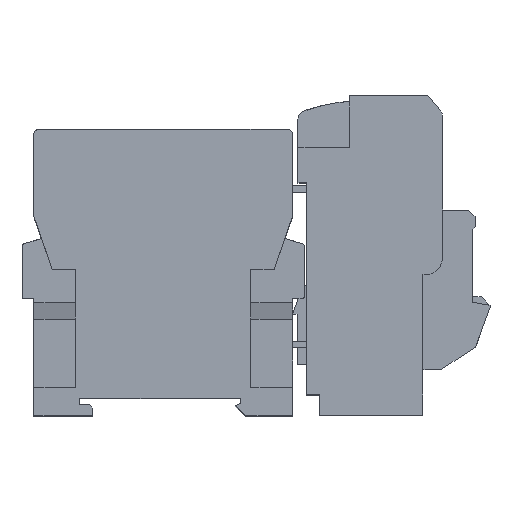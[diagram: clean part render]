
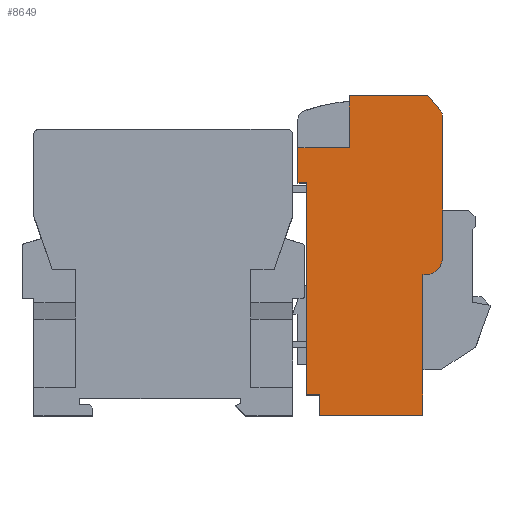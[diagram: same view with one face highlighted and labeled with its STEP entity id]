
A CAD part, top view. The second image highlights one B-rep face of the part: STEP entity #8649.
In plain terms, the highlighted planar face has unit normal (0, 0, 1) as drawn and (-1, 0, 0) by its records, which use the part's own axes.
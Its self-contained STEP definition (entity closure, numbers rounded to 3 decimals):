
#107 = DIRECTION ( 'NONE',  ( 0., 1., 0. ) ) ;
#275 = VERTEX_POINT ( 'NONE', #10332 ) ;
#374 = EDGE_CURVE ( 'NONE', #1355, #5668, #2271, .T. ) ;
#411 = EDGE_CURVE ( 'NONE', #14746, #8705, #10708, .T. ) ;
#431 = VECTOR ( 'NONE', #10090, 1000. ) ;
#605 = CARTESIAN_POINT ( 'NONE',  ( -0.476, -29.954, -1.833 ) ) ;
#652 = AXIS2_PLACEMENT_3D ( 'NONE', #605, #8642, #1780 ) ;
#674 = VERTEX_POINT ( 'NONE', #9810 ) ;
#860 = CARTESIAN_POINT ( 'NONE',  ( -0.476, -30.763, 34.767 ) ) ;
#915 = ORIENTED_EDGE ( 'NONE', *, *, #12789, .F. ) ;
#916 = VERTEX_POINT ( 'NONE', #7682 ) ;
#988 = ORIENTED_EDGE ( 'NONE', *, *, #1944, .F. ) ;
#1066 = EDGE_CURVE ( 'NONE', #7378, #14746, #10867, .T. ) ;
#1080 = LINE ( 'NONE', #2215, #6839 ) ;
#1094 = VERTEX_POINT ( 'NONE', #11858 ) ;
#1355 = VERTEX_POINT ( 'NONE', #13533 ) ;
#1449 = DIRECTION ( 'NONE',  ( 0., 0., -1. ) ) ;
#1506 = DIRECTION ( 'NONE',  ( 0., 1., 0. ) ) ;
#1548 = CARTESIAN_POINT ( 'NONE',  ( -0.476, -2.954, 15.167 ) ) ;
#1674 = EDGE_CURVE ( 'NONE', #10257, #275, #13481, .T. ) ;
#1707 = VERTEX_POINT ( 'NONE', #1874 ) ;
#1762 = ORIENTED_EDGE ( 'NONE', *, *, #1674, .F. ) ;
#1780 = DIRECTION ( 'NONE',  ( 0., 1., 0. ) ) ;
#1874 = CARTESIAN_POINT ( 'NONE',  ( -0.476, -29.454, -5.833 ) ) ;
#1944 = EDGE_CURVE ( 'NONE', #916, #14050, #1080, .T. ) ;
#2215 = CARTESIAN_POINT ( 'NONE',  ( -0.476, -17.668, 23.167 ) ) ;
#2271 = CIRCLE ( 'NONE', #7478, 2. ) ;
#2334 = DIRECTION ( 'NONE',  ( 0., 0., 1. ) ) ;
#2383 = ORIENTED_EDGE ( 'NONE', *, *, #12006, .F. ) ;
#2500 = DIRECTION ( 'NONE',  ( 0., 0., 1. ) ) ;
#2507 = LINE ( 'NONE', #4022, #14355 ) ;
#3216 = DIRECTION ( 'NONE',  ( 0., 0., 1. ) ) ;
#3302 = VECTOR ( 'NONE', #10591, 1000. ) ;
#3455 = CARTESIAN_POINT ( 'NONE',  ( -0.476, -5.954, -1.248 ) ) ;
#3723 = DIRECTION ( 'NONE',  ( 1., 0., 0. ) ) ;
#3734 = CARTESIAN_POINT ( 'NONE',  ( -0.476, -29.454, -1.248 ) ) ;
#4022 = CARTESIAN_POINT ( 'NONE',  ( -0.476, -0.954, -1.248 ) ) ;
#4292 = EDGE_CURVE ( 'NONE', #1707, #13852, #9401, .T. ) ;
#4542 = DIRECTION ( 'NONE',  ( 0., 1., 0. ) ) ;
#4547 = DIRECTION ( 'NONE',  ( 0., -1., 0. ) ) ;
#4667 = EDGE_CURVE ( 'NONE', #1094, #10628, #7063, .T. ) ;
#4678 = EDGE_CURVE ( 'NONE', #674, #7378, #9737, .T. ) ;
#4847 = EDGE_CURVE ( 'NONE', #10628, #1355, #13324, .T. ) ;
#5023 = ORIENTED_EDGE ( 'NONE', *, *, #4292, .F. ) ;
#5225 = CARTESIAN_POINT ( 'NONE',  ( -0.476, -0.954, 15.167 ) ) ;
#5597 = DIRECTION ( 'NONE',  ( 0., 1., 0. ) ) ;
#5668 = VERTEX_POINT ( 'NONE', #6703 ) ;
#6120 = VECTOR ( 'NONE', #14276, 1000. ) ;
#6250 = CARTESIAN_POINT ( 'NONE',  ( -0.476, -33.954, -1.248 ) ) ;
#6338 = VECTOR ( 'NONE', #2334, 1000. ) ;
#6360 = AXIS2_PLACEMENT_3D ( 'NONE', #8318, #3723, #1449 ) ;
#6379 = DIRECTION ( 'NONE',  ( 0., 0., 1. ) ) ;
#6566 = LINE ( 'NONE', #6640, #431 ) ;
#6598 = ORIENTED_EDGE ( 'NONE', *, *, #14723, .F. ) ;
#6640 = CARTESIAN_POINT ( 'NONE',  ( -0.476, -17.668, -37.833 ) ) ;
#6703 = CARTESIAN_POINT ( 'NONE',  ( -0.476, -33.954, 30.236 ) ) ;
#6801 = EDGE_CURVE ( 'NONE', #7395, #916, #2507, .T. ) ;
#6839 = VECTOR ( 'NONE', #4547, 1000. ) ;
#7011 = DIRECTION ( 'NONE',  ( 1., 0., 0. ) ) ;
#7063 = LINE ( 'NONE', #9110, #12769 ) ;
#7230 = VECTOR ( 'NONE', #10057, 1000. ) ;
#7369 = ORIENTED_EDGE ( 'NONE', *, *, #10339, .F. ) ;
#7378 = VERTEX_POINT ( 'NONE', #13224 ) ;
#7395 = VERTEX_POINT ( 'NONE', #5225 ) ;
#7478 = AXIS2_PLACEMENT_3D ( 'NONE', #13894, #7011, #107 ) ;
#7682 = CARTESIAN_POINT ( 'NONE',  ( -0.476, -0.954, 23.167 ) ) ;
#7809 = VECTOR ( 'NONE', #1506, 1000. ) ;
#7962 = VECTOR ( 'NONE', #5597, 1000. ) ;
#8318 = CARTESIAN_POINT ( 'NONE',  ( -0.476, -17.668, -1.248 ) ) ;
#8371 = CARTESIAN_POINT ( 'NONE',  ( -0.476, -30.595, 34.967 ) ) ;
#8436 = LINE ( 'NONE', #6250, #6120 ) ;
#8642 = DIRECTION ( 'NONE',  ( 1., 0., 0. ) ) ;
#8649 = ADVANCED_FACE ( 'NONE', ( #9279 ), #11720, .F. ) ;
#8677 = EDGE_CURVE ( 'NONE', #8705, #7395, #11960, .T. ) ;
#8705 = VERTEX_POINT ( 'NONE', #1548 ) ;
#8718 = ORIENTED_EDGE ( 'NONE', *, *, #374, .F. ) ;
#8811 = ORIENTED_EDGE ( 'NONE', *, *, #1066, .F. ) ;
#8982 = CARTESIAN_POINT ( 'NONE',  ( -0.476, -29.454, -5.833 ) ) ;
#9074 = CARTESIAN_POINT ( 'NONE',  ( -0.476, -17.668, -33.233 ) ) ;
#9110 = CARTESIAN_POINT ( 'NONE',  ( -0.476, -17.668, 34.967 ) ) ;
#9279 = FACE_OUTER_BOUND ( 'NONE', #10287, .T. ) ;
#9401 = LINE ( 'NONE', #3734, #3302 ) ;
#9473 = CARTESIAN_POINT ( 'NONE',  ( -0.476, -0.954, 15.167 ) ) ;
#9737 = LINE ( 'NONE', #3455, #6338 ) ;
#9810 = CARTESIAN_POINT ( 'NONE',  ( -0.476, -5.954, -37.833 ) ) ;
#9962 = CARTESIAN_POINT ( 'NONE',  ( -0.476, -2.954, -33.233 ) ) ;
#10057 = DIRECTION ( 'NONE',  ( 0., -0.643, -0.766 ) ) ;
#10076 = CARTESIAN_POINT ( 'NONE',  ( -0.476, -12.654, -1.248 ) ) ;
#10090 = DIRECTION ( 'NONE',  ( 0., 1., 0. ) ) ;
#10257 = VERTEX_POINT ( 'NONE', #12165 ) ;
#10287 = EDGE_LOOP ( 'NONE', ( #988, #14915, #11223, #14150, #8811, #12894, #2383, #5023, #915, #1762, #6598, #8718, #10845, #11395, #7369 ) ) ;
#10332 = CARTESIAN_POINT ( 'NONE',  ( -0.476, -29.954, -5.833 ) ) ;
#10339 = EDGE_CURVE ( 'NONE', #14050, #1094, #13339, .T. ) ;
#10345 = VECTOR ( 'NONE', #2500, 1000. ) ;
#10385 = CARTESIAN_POINT ( 'NONE',  ( -0.476, -29.454, -37.833 ) ) ;
#10591 = DIRECTION ( 'NONE',  ( 0., 0., -1. ) ) ;
#10628 = VERTEX_POINT ( 'NONE', #8371 ) ;
#10708 = LINE ( 'NONE', #13947, #10345 ) ;
#10845 = ORIENTED_EDGE ( 'NONE', *, *, #4847, .F. ) ;
#10867 = LINE ( 'NONE', #9074, #12951 ) ;
#11223 = ORIENTED_EDGE ( 'NONE', *, *, #8677, .F. ) ;
#11395 = ORIENTED_EDGE ( 'NONE', *, *, #4667, .F. ) ;
#11464 = DIRECTION ( 'NONE',  ( 0., -1., 0. ) ) ;
#11720 = PLANE ( 'NONE',  #6360 ) ;
#11858 = CARTESIAN_POINT ( 'NONE',  ( -0.476, -12.654, 34.967 ) ) ;
#11908 = CARTESIAN_POINT ( 'NONE',  ( -0.476, -12.654, 23.167 ) ) ;
#11960 = LINE ( 'NONE', #9473, #7809 ) ;
#12006 = EDGE_CURVE ( 'NONE', #13852, #674, #6566, .T. ) ;
#12165 = CARTESIAN_POINT ( 'NONE',  ( -0.476, -33.954, -1.833 ) ) ;
#12769 = VECTOR ( 'NONE', #11464, 1000. ) ;
#12789 = EDGE_CURVE ( 'NONE', #275, #1707, #13717, .T. ) ;
#12894 = ORIENTED_EDGE ( 'NONE', *, *, #4678, .F. ) ;
#12951 = VECTOR ( 'NONE', #4542, 1000. ) ;
#13224 = CARTESIAN_POINT ( 'NONE',  ( -0.476, -5.954, -33.233 ) ) ;
#13324 = LINE ( 'NONE', #860, #7230 ) ;
#13339 = LINE ( 'NONE', #10076, #13708 ) ;
#13481 = CIRCLE ( 'NONE', #652, 4. ) ;
#13533 = CARTESIAN_POINT ( 'NONE',  ( -0.476, -33.486, 31.522 ) ) ;
#13708 = VECTOR ( 'NONE', #3216, 1000. ) ;
#13717 = LINE ( 'NONE', #8982, #7962 ) ;
#13852 = VERTEX_POINT ( 'NONE', #10385 ) ;
#13894 = CARTESIAN_POINT ( 'NONE',  ( -0.476, -31.954, 30.236 ) ) ;
#13947 = CARTESIAN_POINT ( 'NONE',  ( -0.476, -2.954, 15.167 ) ) ;
#14050 = VERTEX_POINT ( 'NONE', #11908 ) ;
#14150 = ORIENTED_EDGE ( 'NONE', *, *, #411, .F. ) ;
#14276 = DIRECTION ( 'NONE',  ( 0., 0., -1. ) ) ;
#14355 = VECTOR ( 'NONE', #6379, 1000. ) ;
#14723 = EDGE_CURVE ( 'NONE', #5668, #10257, #8436, .T. ) ;
#14746 = VERTEX_POINT ( 'NONE', #9962 ) ;
#14915 = ORIENTED_EDGE ( 'NONE', *, *, #6801, .F. ) ;
